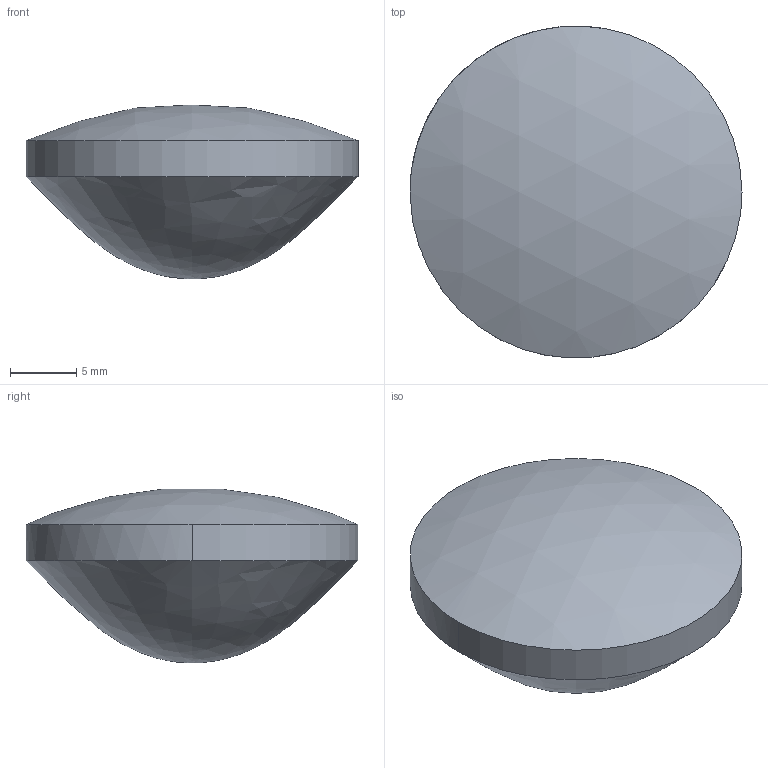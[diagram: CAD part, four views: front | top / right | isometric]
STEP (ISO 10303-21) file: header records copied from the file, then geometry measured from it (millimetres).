
FILE_DESCRIPTION ((), '1');
FILE_NAME ('D:\Applikationen\Optikdesign\StockOptics\Neuentwicklung StockOptics-Designs\AFL Aspheres\AFL25-17,5 (010718)\ZAS-010718-500-01A Linse AFL25-17_200902_LKI.STP', '2020-09-02T10:22:01', ('Unknown'), ('Unknown'), 'HarmonyWare STEP v2.0.6', 'HarmonyWare Translators', '');
FILE_SCHEMA (('CONFIG_CONTROL_DESIGN'));
Length unit declared in the file: millimetre
Products named in the file (2): NONE
Bounding box: 25 x 24.99 x 13.1 mm (x, y, z)
Volume: 3839.1 mm3; surface area: 1366.5 mm2
Topology: 1 solids, 1 shells, 4 faces, 18 edges, 24 vertices
Faces by surface type: cylinder 2, bspline 1, sphere 1
Entity records: 530 total; most frequent: CARTESIAN_POINT 251, ORIENTED_EDGE 16, PERSON 16, ORGANIZATION 16, PERSON_AND_ORGANIZATION 16, DIRECTION 15, PERSON_AND_ORGANIZATION_ROLE 10, CC_DESIGN_PERSON_AND_ORGANIZATION_ASSIGNMENT 10
